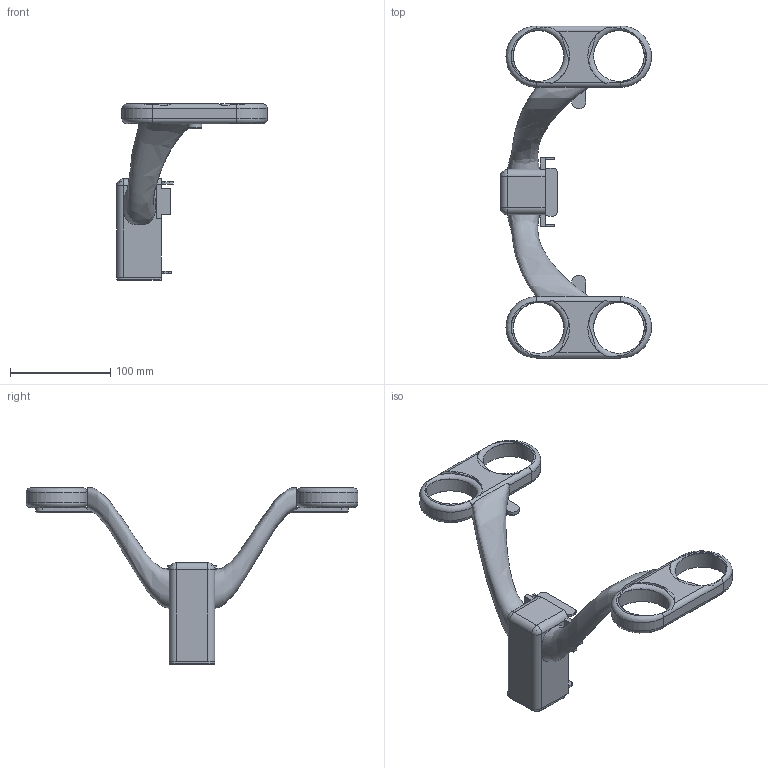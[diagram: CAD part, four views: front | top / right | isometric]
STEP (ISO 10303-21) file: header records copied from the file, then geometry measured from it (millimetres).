
FILE_DESCRIPTION(('Open CASCADE Model'),'2;1');
FILE_NAME('Open CASCADE Shape Model','2026-11-26T14:02:28',('Author'),( 'Open CASCADE'),'Open CASCADE STEP processor 7.9','Open CASCADE 7.9' ,'Unknown');
FILE_SCHEMA(('AUTOMOTIVE_DESIGN { 1 0 10303 214 1 1 1 1 }'));
Length unit declared in the file: millimetre
Products named in the file (7): ecbb7476-e9cb-11f1-8353-a6be8bb1eaac; backpack; bottom_cap; wing_left; wing_right; nacelle_left; nacelle_right
Assembly tree (6 placements, depth 2):
  ecbb7476-e9cb-11f1-8353-a6be8bb1eaac
    backpack
    bottom_cap
    wing_left
    wing_right
    nacelle_left
    nacelle_right
Bounding box: 150.54 x 331.1 x 176 mm (x, y, z)
Volume: 366988.4 mm3; surface area: 120873.6 mm2
Topology: 6 solids, 6 shells, 208 faces, 516 edges, 330 vertices
Faces by surface type: plane 104, cylinder 80, torus 20, sphere 2, bspline 2
Full cylindrical faces by diameter (mm): 3.4 x10, 4 x8, 6 x8, 50.6 x4, 54.3 x4
Entity records: 31332 total; most frequent: CARTESIAN_POINT 21211, DIRECTION 1782, ORIENTED_EDGE 1028, PCURVE 1028, DEFINITIONAL_REPRESENTATION 1028, LINE 912, VECTOR 912, EDGE_CURVE 514
